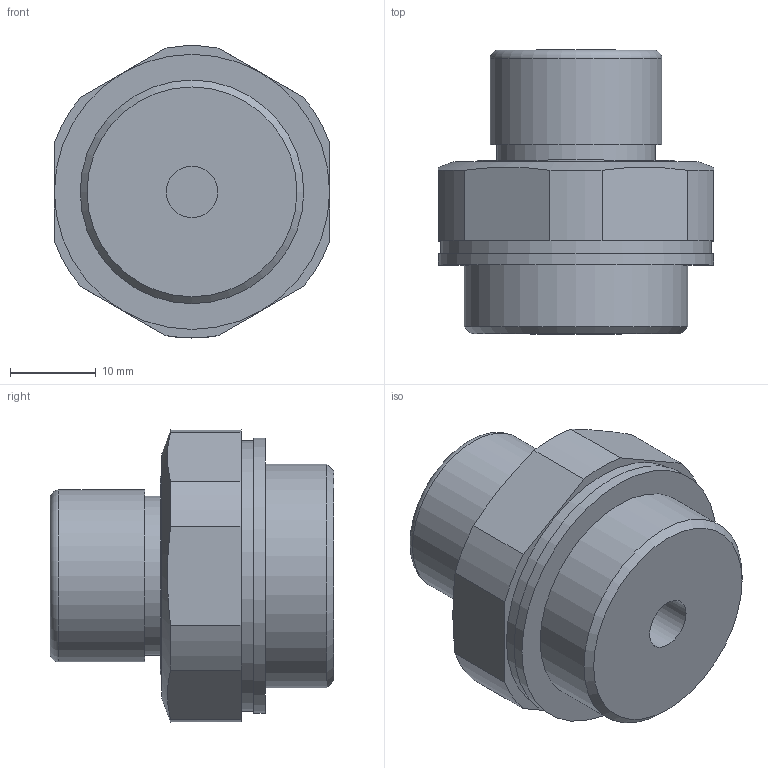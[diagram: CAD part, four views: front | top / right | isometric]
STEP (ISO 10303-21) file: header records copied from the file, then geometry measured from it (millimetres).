
FILE_DESCRIPTION( ( 'STEP AP203' ), '1' );
FILE_NAME( 'C:/Temp/Ganter_Step_05_03_2020/data/3_5/gn881/Breather valve GN 881-M26x1,5-200-MS-M.stp', '2020-03-12T13:42:38', ( 'License CC BY-ND 4.0' ), ( 'CADENAS' ), ' ', 'PARTsolutions', ' ' );
FILE_SCHEMA( ( 'CONFIG_CONTROL_DESIGN' ) );
Length unit declared in the file: millimetre
Products named in the file (1): _Breather valve GN 881-M26x1,5-200-MS-M
Bounding box: 32 x 33 x 33.97 mm (x, y, z)
Volume: 17842.5 mm3; surface area: 4744.8 mm2
Topology: 1 solids, 1 shells, 33 faces, 67 edges, 44 vertices
Faces by surface type: plane 16, cylinder 14, cone 2, torus 1
Full cylindrical faces by diameter (mm): 6 x1, 18.5 x1, 19 x1, 20 x1, 23 x1, 26 x1, 31.5 x1, 32 x1
Entity records: 870 total; most frequent: CARTESIAN_POINT 158, DIRECTION 148, ORIENTED_EDGE 110, AXIS2_PLACEMENT_3D 65, EDGE_CURVE 55, EDGE_LOOP 52, VERTEX_POINT 43, FACE_OUTER_BOUND 42
